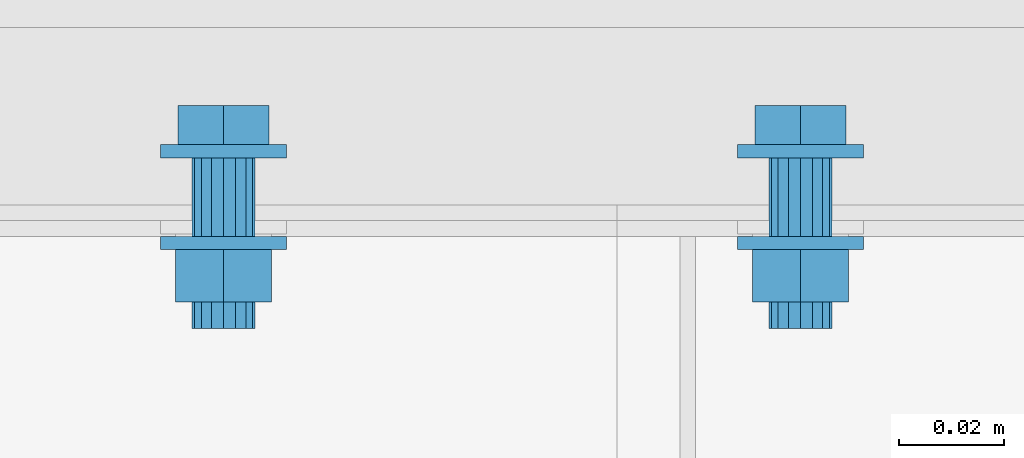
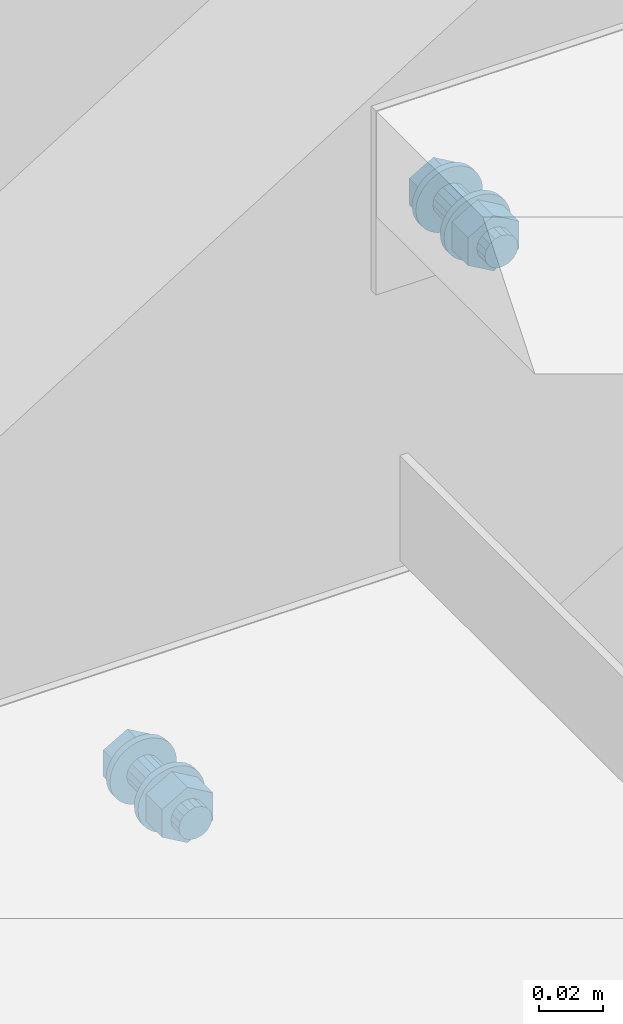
# One storey, part 284 of 410: 2 mechanical fasteners.
"""IFC2X3 building model written with IfcOpenShell, lengths in millimetres."""

from ifc_helpers import new_model, entity, si_unit, converted_unit, origin_with_axes, place, context, project, spatial, faceted_brep, element, save


model = new_model("IFC2X3")

# Units and contexts
model_context = context("Model", 3, precision=1e-09, world=origin_with_axes())
ifc_project = project(units=[si_unit("LENGTHUNIT", "METRE", prefix="MILLI"), si_unit("AREAUNIT", "SQUARE_METRE"), si_unit("VOLUMEUNIT", "CUBIC_METRE"), converted_unit("PLANEANGLEUNIT", "DEGREE", entity("IfcPlaneAngleMeasure", 0.01745329), si_unit("PLANEANGLEUNIT", "RADIAN"), dimensions=[0, 0, 0, 0, 0, 0, 0])], contexts=[model_context])

# Site, building, storey
site_placement = place(None, origin_with_axes())
site = spatial("IfcSite", under=ifc_project, at=site_placement, Name="mKR Teilneubau & Sanierung BA1 - Ostfildern", CompositionType="ELEMENT")
building_placement = place(site_placement, origin_with_axes())
building = spatial("IfcBuilding", under=site, at=building_placement, Name="Struktur 1", CompositionType="ELEMENT")
storey_placement = place(building_placement, origin_with_axes())
storey = spatial("IfcBuildingStorey", under=building, at=storey_placement, Name="Default Storey", CompositionType="ELEMENT", Elevation=0.0)

# Mechanical fasteners
mechanical_fastener_1_placement = place(None, origin_with_axes())
element("IfcMechanicalFastener", 1, at=mechanical_fastener_1_placement, inside=storey, ObjectType="Bolt", NominalDiameter=12.0, NominalLength=35.0, context=model_context, shape_type="Brep", body=[
    faceted_brep([(528.0, 16731.499999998, -3094.6), (528.0, 16728.999999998, -3094.6), (528.230576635, 16728.999999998, -3092.258916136), (528.230576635, 16731.499999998, -3092.258916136), (528.91344561, 16728.999999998, -3090.007798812), (528.91344561, 16731.499999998, -3090.007798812), (530.022364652, 16728.999999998, -3087.933157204), (530.022364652, 16731.499999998, -3087.933157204), (531.514718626, 16728.999999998, -3086.114718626), (531.514718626, 16731.499999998, -3086.114718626), (533.333157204, 16728.999999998, -3084.622364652), (533.333157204, 16731.499999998, -3084.622364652), (535.407798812, 16728.999999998, -3083.51344561), (535.407798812, 16731.499999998, -3083.51344561), (537.658916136, 16728.999999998, -3082.830576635), (537.658916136, 16731.499999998, -3082.830576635), (540.0, 16728.999999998, -3082.6), (540.0, 16731.499999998, -3082.6), (542.341083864, 16728.999999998, -3082.830576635), (542.341083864, 16731.499999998, -3082.830576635), (544.592201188, 16728.999999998, -3083.51344561), (544.592201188, 16731.499999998, -3083.51344561), (546.666842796, 16728.999999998, -3084.622364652), (546.666842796, 16731.499999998, -3084.622364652), (548.485281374, 16728.999999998, -3086.114718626), (548.485281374, 16731.499999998, -3086.114718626), (549.977635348, 16728.999999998, -3087.933157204), (549.977635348, 16731.499999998, -3087.933157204), (551.08655439, 16728.999999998, -3090.007798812), (551.08655439, 16731.499999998, -3090.007798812), (551.769423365, 16728.999999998, -3092.258916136), (551.769423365, 16731.499999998, -3092.258916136), (552.0, 16728.999999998, -3094.6), (552.0, 16731.499999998, -3094.6), (551.769423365, 16728.999999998, -3096.941083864), (551.769423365, 16731.499999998, -3096.941083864), (551.08655439, 16728.999999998, -3099.192201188), (551.08655439, 16731.499999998, -3099.192201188), (549.977635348, 16728.999999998, -3101.266842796), (549.977635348, 16731.499999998, -3101.266842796), (548.485281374, 16728.999999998, -3103.085281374), (548.485281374, 16731.499999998, -3103.085281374), (546.666842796, 16728.999999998, -3104.577635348), (546.666842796, 16731.499999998, -3104.577635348), (544.592201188, 16728.999999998, -3105.68655439), (544.592201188, 16731.499999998, -3105.68655439), (542.341083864, 16728.999999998, -3106.369423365), (542.341083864, 16731.499999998, -3106.369423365), (540.0, 16728.999999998, -3106.6), (540.0, 16731.499999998, -3106.6), (537.658916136, 16728.999999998, -3106.369423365), (537.658916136, 16731.499999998, -3106.369423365), (535.407798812, 16728.999999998, -3105.68655439), (535.407798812, 16731.499999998, -3105.68655439), (533.333157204, 16728.999999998, -3104.577635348), (533.333157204, 16731.499999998, -3104.577635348), (531.514718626, 16728.999999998, -3103.085281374), (531.514718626, 16731.499999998, -3103.085281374), (530.022364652, 16728.999999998, -3101.266842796), (530.022364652, 16731.499999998, -3101.266842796), (528.91344561, 16728.999999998, -3099.192201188), (528.91344561, 16731.499999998, -3099.192201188), (528.230576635, 16728.999999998, -3096.941083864), (528.230576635, 16731.499999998, -3096.941083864)], [[[0, 1, 2, 3]], [[3, 2, 4, 5]], [[5, 4, 6, 7]], [[7, 6, 8, 9]], [[9, 8, 10, 11]], [[11, 10, 12, 13]], [[13, 12, 14, 15]], [[15, 14, 16, 17]], [[17, 16, 18, 19]], [[19, 18, 20, 21]], [[21, 20, 22, 23]], [[23, 22, 24, 25]], [[25, 24, 26, 27]], [[27, 26, 28, 29]], [[29, 28, 30, 31]], [[31, 30, 32, 33]], [[33, 32, 34, 35]], [[35, 34, 36, 37]], [[37, 36, 38, 39]], [[39, 38, 40, 41]], [[41, 40, 42, 43]], [[43, 42, 44, 45]], [[45, 44, 46, 47]], [[47, 46, 48, 49]], [[49, 48, 50, 51]], [[51, 50, 52, 53]], [[53, 52, 54, 55]], [[55, 54, 56, 57]], [[57, 56, 58, 59]], [[59, 58, 60, 61]], [[61, 60, 62, 63]], [[63, 62, 1, 0]], [[0, 3, 5, 7, 9, 11, 13, 15, 17, 19, 21, 23, 25, 27, 29, 31, 33, 35, 37, 39, 41, 43, 45, 47, 49, 51, 53, 55, 57, 59, 61, 63]], [[1, 62, 60, 58, 56, 54, 52, 50, 48, 46, 44, 42, 40, 38, 36, 34, 32, 30, 28, 26, 24, 22, 20, 18, 16, 14, 12, 10, 8, 6, 4, 2]]]),
    faceted_brep([(548.673244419, 16731.499999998, -3089.5925), (548.673244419, 16738.999999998, -3089.5925), (540.0, 16738.999999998, -3084.585), (540.0, 16731.499999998, -3084.585), (531.326755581, 16738.999999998, -3089.5925), (531.326755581, 16731.499999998, -3089.5925), (531.326755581, 16738.999999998, -3099.6075), (531.326755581, 16731.499999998, -3099.6075), (540.0, 16738.999999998, -3104.615), (540.0, 16731.499999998, -3104.615), (548.673244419, 16738.999999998, -3099.6075), (548.673244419, 16731.499999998, -3099.6075)], [[[0, 1, 2, 3]], [[3, 2, 4, 5]], [[5, 4, 6, 7]], [[7, 6, 8, 9]], [[9, 8, 10, 11]], [[11, 10, 1, 0]], [[4, 2, 1, 10, 8, 6]], [[0, 3, 5, 7, 9, 11]]]),
    faceted_brep([(534.0, 16728.999999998, -3094.6), (534.0, 16713.999999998, -3094.6), (534.456722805, 16713.999999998, -3092.303899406), (534.456722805, 16728.999999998, -3092.303899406), (535.757359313, 16713.999999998, -3090.357359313), (535.757359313, 16728.999999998, -3090.357359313), (537.703899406, 16713.999999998, -3089.056722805), (537.703899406, 16728.999999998, -3089.056722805), (540.0, 16713.999999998, -3088.6), (540.0, 16728.999999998, -3088.6), (542.296100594, 16713.999999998, -3089.056722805), (542.296100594, 16728.999999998, -3089.056722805), (544.242640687, 16713.999999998, -3090.357359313), (544.242640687, 16728.999999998, -3090.357359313), (545.543277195, 16713.999999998, -3092.303899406), (545.543277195, 16728.999999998, -3092.303899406), (546.0, 16713.999999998, -3094.6), (546.0, 16728.999999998, -3094.6), (545.543277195, 16713.999999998, -3096.896100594), (545.543277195, 16728.999999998, -3096.896100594), (544.242640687, 16713.999999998, -3098.842640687), (544.242640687, 16728.999999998, -3098.842640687), (542.296100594, 16713.999999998, -3100.143277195), (542.296100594, 16728.999999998, -3100.143277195), (540.0, 16713.999999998, -3100.6), (540.0, 16728.999999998, -3100.6), (537.703899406, 16713.999999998, -3100.143277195), (537.703899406, 16728.999999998, -3100.143277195), (535.757359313, 16713.999999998, -3098.842640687), (535.757359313, 16728.999999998, -3098.842640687), (534.456722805, 16713.999999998, -3096.896100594), (534.456722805, 16728.999999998, -3096.896100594)], [[[0, 1, 2, 3]], [[3, 2, 4, 5]], [[5, 4, 6, 7]], [[7, 6, 8, 9]], [[9, 8, 10, 11]], [[11, 10, 12, 13]], [[13, 12, 14, 15]], [[15, 14, 16, 17]], [[17, 16, 18, 19]], [[19, 18, 20, 21]], [[21, 20, 22, 23]], [[23, 22, 24, 25]], [[25, 24, 26, 27]], [[27, 26, 28, 29]], [[29, 28, 30, 31]], [[31, 30, 1, 0]], [[0, 3, 5, 7, 9, 11, 13, 15, 17, 19, 21, 23, 25, 27, 29, 31]], [[1, 30, 28, 26, 24, 22, 20, 18, 16, 14, 12, 10, 8, 6, 4, 2]]]),
    faceted_brep([(528.0, 16713.999999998, -3094.6), (528.0, 16711.499999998, -3094.6), (528.230576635, 16711.499999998, -3092.258916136), (528.230576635, 16713.999999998, -3092.258916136), (528.91344561, 16711.499999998, -3090.007798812), (528.91344561, 16713.999999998, -3090.007798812), (530.022364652, 16711.499999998, -3087.933157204), (530.022364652, 16713.999999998, -3087.933157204), (531.514718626, 16711.499999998, -3086.114718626), (531.514718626, 16713.999999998, -3086.114718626), (533.333157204, 16711.499999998, -3084.622364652), (533.333157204, 16713.999999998, -3084.622364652), (535.407798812, 16711.499999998, -3083.51344561), (535.407798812, 16713.999999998, -3083.51344561), (537.658916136, 16711.499999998, -3082.830576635), (537.658916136, 16713.999999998, -3082.830576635), (540.0, 16711.499999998, -3082.6), (540.0, 16713.999999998, -3082.6), (542.341083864, 16711.499999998, -3082.830576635), (542.341083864, 16713.999999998, -3082.830576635), (544.592201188, 16711.499999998, -3083.51344561), (544.592201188, 16713.999999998, -3083.51344561), (546.666842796, 16711.499999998, -3084.622364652), (546.666842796, 16713.999999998, -3084.622364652), (548.485281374, 16711.499999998, -3086.114718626), (548.485281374, 16713.999999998, -3086.114718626), (549.977635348, 16711.499999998, -3087.933157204), (549.977635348, 16713.999999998, -3087.933157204), (551.08655439, 16711.499999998, -3090.007798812), (551.08655439, 16713.999999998, -3090.007798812), (551.769423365, 16711.499999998, -3092.258916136), (551.769423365, 16713.999999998, -3092.258916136), (552.0, 16711.499999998, -3094.6), (552.0, 16713.999999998, -3094.6), (551.769423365, 16711.499999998, -3096.941083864), (551.769423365, 16713.999999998, -3096.941083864), (551.08655439, 16711.499999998, -3099.192201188), (551.08655439, 16713.999999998, -3099.192201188), (549.977635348, 16711.499999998, -3101.266842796), (549.977635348, 16713.999999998, -3101.266842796), (548.485281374, 16711.499999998, -3103.085281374), (548.485281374, 16713.999999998, -3103.085281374), (546.666842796, 16711.499999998, -3104.577635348), (546.666842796, 16713.999999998, -3104.577635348), (544.592201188, 16711.499999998, -3105.68655439), (544.592201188, 16713.999999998, -3105.68655439), (542.341083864, 16711.499999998, -3106.369423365), (542.341083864, 16713.999999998, -3106.369423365), (540.0, 16711.499999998, -3106.6), (540.0, 16713.999999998, -3106.6), (537.658916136, 16711.499999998, -3106.369423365), (537.658916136, 16713.999999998, -3106.369423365), (535.407798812, 16711.499999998, -3105.68655439), (535.407798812, 16713.999999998, -3105.68655439), (533.333157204, 16711.499999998, -3104.577635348), (533.333157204, 16713.999999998, -3104.577635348), (531.514718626, 16711.499999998, -3103.085281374), (531.514718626, 16713.999999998, -3103.085281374), (530.022364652, 16711.499999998, -3101.266842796), (530.022364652, 16713.999999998, -3101.266842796), (528.91344561, 16711.499999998, -3099.192201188), (528.91344561, 16713.999999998, -3099.192201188), (528.230576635, 16711.499999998, -3096.941083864), (528.230576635, 16713.999999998, -3096.941083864)], [[[0, 1, 2, 3]], [[3, 2, 4, 5]], [[5, 4, 6, 7]], [[7, 6, 8, 9]], [[9, 8, 10, 11]], [[11, 10, 12, 13]], [[13, 12, 14, 15]], [[15, 14, 16, 17]], [[17, 16, 18, 19]], [[19, 18, 20, 21]], [[21, 20, 22, 23]], [[23, 22, 24, 25]], [[25, 24, 26, 27]], [[27, 26, 28, 29]], [[29, 28, 30, 31]], [[31, 30, 32, 33]], [[33, 32, 34, 35]], [[35, 34, 36, 37]], [[37, 36, 38, 39]], [[39, 38, 40, 41]], [[41, 40, 42, 43]], [[43, 42, 44, 45]], [[45, 44, 46, 47]], [[47, 46, 48, 49]], [[49, 48, 50, 51]], [[51, 50, 52, 53]], [[53, 52, 54, 55]], [[55, 54, 56, 57]], [[57, 56, 58, 59]], [[59, 58, 60, 61]], [[61, 60, 62, 63]], [[63, 62, 1, 0]], [[0, 3, 5, 7, 9, 11, 13, 15, 17, 19, 21, 23, 25, 27, 29, 31, 33, 35, 37, 39, 41, 43, 45, 47, 49, 51, 53, 55, 57, 59, 61, 63]], [[1, 62, 60, 58, 56, 54, 52, 50, 48, 46, 44, 42, 40, 38, 36, 34, 32, 30, 28, 26, 24, 22, 20, 18, 16, 14, 12, 10, 8, 6, 4, 2]]]),
    faceted_brep([(549.13656801, 16701.499999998, -3089.325), (549.13656801, 16711.499999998, -3089.325), (540.0, 16711.499999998, -3084.05), (540.0, 16701.499999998, -3084.05), (530.86343199, 16711.499999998, -3089.325), (530.86343199, 16701.499999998, -3089.325), (530.86343199, 16711.499999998, -3099.875), (530.86343199, 16701.499999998, -3099.875), (540.0, 16711.499999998, -3105.15), (540.0, 16701.499999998, -3105.15), (549.13656801, 16711.499999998, -3099.875), (549.13656801, 16701.499999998, -3099.875)], [[[0, 1, 2, 3]], [[3, 2, 4, 5]], [[5, 4, 6, 7]], [[7, 6, 8, 9]], [[9, 8, 10, 11]], [[11, 10, 1, 0]], [[4, 2, 1, 10, 8, 6]], [[0, 3, 5, 7, 9, 11]]]),
    faceted_brep([(534.0, 16701.499999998, -3094.6), (534.0, 16696.499999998, -3094.6), (534.456722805, 16696.499999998, -3092.303899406), (534.456722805, 16701.499999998, -3092.303899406), (535.757359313, 16696.499999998, -3090.357359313), (535.757359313, 16701.499999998, -3090.357359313), (537.703899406, 16696.499999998, -3089.056722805), (537.703899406, 16701.499999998, -3089.056722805), (540.0, 16696.499999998, -3088.6), (540.0, 16701.499999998, -3088.6), (542.296100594, 16696.499999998, -3089.056722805), (542.296100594, 16701.499999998, -3089.056722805), (544.242640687, 16696.499999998, -3090.357359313), (544.242640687, 16701.499999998, -3090.357359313), (545.543277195, 16696.499999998, -3092.303899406), (545.543277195, 16701.499999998, -3092.303899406), (546.0, 16696.499999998, -3094.6), (546.0, 16701.499999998, -3094.6), (545.543277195, 16696.499999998, -3096.896100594), (545.543277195, 16701.499999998, -3096.896100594), (544.242640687, 16696.499999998, -3098.842640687), (544.242640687, 16701.499999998, -3098.842640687), (542.296100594, 16696.499999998, -3100.143277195), (542.296100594, 16701.499999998, -3100.143277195), (540.0, 16696.499999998, -3100.6), (540.0, 16701.499999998, -3100.6), (537.703899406, 16696.499999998, -3100.143277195), (537.703899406, 16701.499999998, -3100.143277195), (535.757359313, 16696.499999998, -3098.842640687), (535.757359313, 16701.499999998, -3098.842640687), (534.456722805, 16696.499999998, -3096.896100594), (534.456722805, 16701.499999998, -3096.896100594)], [[[0, 1, 2, 3]], [[3, 2, 4, 5]], [[5, 4, 6, 7]], [[7, 6, 8, 9]], [[9, 8, 10, 11]], [[11, 10, 12, 13]], [[13, 12, 14, 15]], [[15, 14, 16, 17]], [[17, 16, 18, 19]], [[19, 18, 20, 21]], [[21, 20, 22, 23]], [[23, 22, 24, 25]], [[25, 24, 26, 27]], [[27, 26, 28, 29]], [[29, 28, 30, 31]], [[31, 30, 1, 0]], [[0, 3, 5, 7, 9, 11, 13, 15, 17, 19, 21, 23, 25, 27, 29, 31]], [[1, 30, 28, 26, 24, 22, 20, 18, 16, 14, 12, 10, 8, 6, 4, 2]]]),
])
mechanical_fastener_2_placement = place(None, origin_with_axes())
element("IfcMechanicalFastener", 2, at=mechanical_fastener_2_placement, inside=storey, ObjectType="Bolt", NominalDiameter=12.0, NominalLength=35.0, context=model_context, shape_type="Brep", body=[
    faceted_brep([(638.0, 16731.499999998, -2915.8), (638.0, 16728.999999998, -2915.8), (638.230576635, 16728.999999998, -2913.458916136), (638.230576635, 16731.499999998, -2913.458916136), (638.91344561, 16728.999999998, -2911.207798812), (638.91344561, 16731.499999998, -2911.207798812), (640.022364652, 16728.999999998, -2909.133157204), (640.022364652, 16731.499999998, -2909.133157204), (641.514718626, 16728.999999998, -2907.314718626), (641.514718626, 16731.499999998, -2907.314718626), (643.333157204, 16728.999999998, -2905.822364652), (643.333157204, 16731.499999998, -2905.822364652), (645.407798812, 16728.999999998, -2904.71344561), (645.407798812, 16731.499999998, -2904.71344561), (647.658916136, 16728.999999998, -2904.030576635), (647.658916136, 16731.499999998, -2904.030576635), (650.0, 16728.999999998, -2903.8), (650.0, 16731.499999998, -2903.8), (652.341083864, 16728.999999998, -2904.030576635), (652.341083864, 16731.499999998, -2904.030576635), (654.592201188, 16728.999999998, -2904.71344561), (654.592201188, 16731.499999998, -2904.71344561), (656.666842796, 16728.999999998, -2905.822364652), (656.666842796, 16731.499999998, -2905.822364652), (658.485281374, 16728.999999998, -2907.314718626), (658.485281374, 16731.499999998, -2907.314718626), (659.977635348, 16728.999999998, -2909.133157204), (659.977635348, 16731.499999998, -2909.133157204), (661.08655439, 16728.999999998, -2911.207798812), (661.08655439, 16731.499999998, -2911.207798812), (661.769423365, 16728.999999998, -2913.458916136), (661.769423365, 16731.499999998, -2913.458916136), (662.0, 16728.999999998, -2915.8), (662.0, 16731.499999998, -2915.8), (661.769423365, 16728.999999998, -2918.141083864), (661.769423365, 16731.499999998, -2918.141083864), (661.08655439, 16728.999999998, -2920.392201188), (661.08655439, 16731.499999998, -2920.392201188), (659.977635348, 16728.999999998, -2922.466842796), (659.977635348, 16731.499999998, -2922.466842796), (658.485281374, 16728.999999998, -2924.285281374), (658.485281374, 16731.499999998, -2924.285281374), (656.666842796, 16728.999999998, -2925.777635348), (656.666842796, 16731.499999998, -2925.777635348), (654.592201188, 16728.999999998, -2926.88655439), (654.592201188, 16731.499999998, -2926.88655439), (652.341083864, 16728.999999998, -2927.569423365), (652.341083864, 16731.499999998, -2927.569423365), (650.0, 16728.999999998, -2927.8), (650.0, 16731.499999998, -2927.8), (647.658916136, 16728.999999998, -2927.569423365), (647.658916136, 16731.499999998, -2927.569423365), (645.407798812, 16728.999999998, -2926.88655439), (645.407798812, 16731.499999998, -2926.88655439), (643.333157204, 16728.999999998, -2925.777635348), (643.333157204, 16731.499999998, -2925.777635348), (641.514718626, 16728.999999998, -2924.285281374), (641.514718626, 16731.499999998, -2924.285281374), (640.022364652, 16728.999999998, -2922.466842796), (640.022364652, 16731.499999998, -2922.466842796), (638.91344561, 16728.999999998, -2920.392201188), (638.91344561, 16731.499999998, -2920.392201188), (638.230576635, 16728.999999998, -2918.141083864), (638.230576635, 16731.499999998, -2918.141083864)], [[[0, 1, 2, 3]], [[3, 2, 4, 5]], [[5, 4, 6, 7]], [[7, 6, 8, 9]], [[9, 8, 10, 11]], [[11, 10, 12, 13]], [[13, 12, 14, 15]], [[15, 14, 16, 17]], [[17, 16, 18, 19]], [[19, 18, 20, 21]], [[21, 20, 22, 23]], [[23, 22, 24, 25]], [[25, 24, 26, 27]], [[27, 26, 28, 29]], [[29, 28, 30, 31]], [[31, 30, 32, 33]], [[33, 32, 34, 35]], [[35, 34, 36, 37]], [[37, 36, 38, 39]], [[39, 38, 40, 41]], [[41, 40, 42, 43]], [[43, 42, 44, 45]], [[45, 44, 46, 47]], [[47, 46, 48, 49]], [[49, 48, 50, 51]], [[51, 50, 52, 53]], [[53, 52, 54, 55]], [[55, 54, 56, 57]], [[57, 56, 58, 59]], [[59, 58, 60, 61]], [[61, 60, 62, 63]], [[63, 62, 1, 0]], [[0, 3, 5, 7, 9, 11, 13, 15, 17, 19, 21, 23, 25, 27, 29, 31, 33, 35, 37, 39, 41, 43, 45, 47, 49, 51, 53, 55, 57, 59, 61, 63]], [[1, 62, 60, 58, 56, 54, 52, 50, 48, 46, 44, 42, 40, 38, 36, 34, 32, 30, 28, 26, 24, 22, 20, 18, 16, 14, 12, 10, 8, 6, 4, 2]]]),
    faceted_brep([(658.673244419, 16731.499999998, -2910.7925), (658.673244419, 16738.999999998, -2910.7925), (650.0, 16738.999999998, -2905.785), (650.0, 16731.499999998, -2905.785), (641.326755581, 16738.999999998, -2910.7925), (641.326755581, 16731.499999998, -2910.7925), (641.326755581, 16738.999999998, -2920.8075), (641.326755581, 16731.499999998, -2920.8075), (650.0, 16738.999999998, -2925.815), (650.0, 16731.499999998, -2925.815), (658.673244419, 16738.999999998, -2920.8075), (658.673244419, 16731.499999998, -2920.8075)], [[[0, 1, 2, 3]], [[3, 2, 4, 5]], [[5, 4, 6, 7]], [[7, 6, 8, 9]], [[9, 8, 10, 11]], [[11, 10, 1, 0]], [[4, 2, 1, 10, 8, 6]], [[0, 3, 5, 7, 9, 11]]]),
    faceted_brep([(644.0, 16728.999999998, -2915.8), (644.0, 16713.999999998, -2915.8), (644.456722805, 16713.999999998, -2913.503899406), (644.456722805, 16728.999999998, -2913.503899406), (645.757359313, 16713.999999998, -2911.557359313), (645.757359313, 16728.999999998, -2911.557359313), (647.703899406, 16713.999999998, -2910.256722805), (647.703899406, 16728.999999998, -2910.256722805), (650.0, 16713.999999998, -2909.8), (650.0, 16728.999999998, -2909.8), (652.296100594, 16713.999999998, -2910.256722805), (652.296100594, 16728.999999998, -2910.256722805), (654.242640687, 16713.999999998, -2911.557359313), (654.242640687, 16728.999999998, -2911.557359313), (655.543277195, 16713.999999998, -2913.503899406), (655.543277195, 16728.999999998, -2913.503899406), (656.0, 16713.999999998, -2915.8), (656.0, 16728.999999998, -2915.8), (655.543277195, 16713.999999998, -2918.096100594), (655.543277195, 16728.999999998, -2918.096100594), (654.242640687, 16713.999999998, -2920.042640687), (654.242640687, 16728.999999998, -2920.042640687), (652.296100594, 16713.999999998, -2921.343277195), (652.296100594, 16728.999999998, -2921.343277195), (650.0, 16713.999999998, -2921.8), (650.0, 16728.999999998, -2921.8), (647.703899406, 16713.999999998, -2921.343277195), (647.703899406, 16728.999999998, -2921.343277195), (645.757359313, 16713.999999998, -2920.042640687), (645.757359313, 16728.999999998, -2920.042640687), (644.456722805, 16713.999999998, -2918.096100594), (644.456722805, 16728.999999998, -2918.096100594)], [[[0, 1, 2, 3]], [[3, 2, 4, 5]], [[5, 4, 6, 7]], [[7, 6, 8, 9]], [[9, 8, 10, 11]], [[11, 10, 12, 13]], [[13, 12, 14, 15]], [[15, 14, 16, 17]], [[17, 16, 18, 19]], [[19, 18, 20, 21]], [[21, 20, 22, 23]], [[23, 22, 24, 25]], [[25, 24, 26, 27]], [[27, 26, 28, 29]], [[29, 28, 30, 31]], [[31, 30, 1, 0]], [[0, 3, 5, 7, 9, 11, 13, 15, 17, 19, 21, 23, 25, 27, 29, 31]], [[1, 30, 28, 26, 24, 22, 20, 18, 16, 14, 12, 10, 8, 6, 4, 2]]]),
    faceted_brep([(638.0, 16713.999999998, -2915.8), (638.0, 16711.499999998, -2915.8), (638.230576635, 16711.499999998, -2913.458916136), (638.230576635, 16713.999999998, -2913.458916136), (638.91344561, 16711.499999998, -2911.207798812), (638.91344561, 16713.999999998, -2911.207798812), (640.022364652, 16711.499999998, -2909.133157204), (640.022364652, 16713.999999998, -2909.133157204), (641.514718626, 16711.499999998, -2907.314718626), (641.514718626, 16713.999999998, -2907.314718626), (643.333157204, 16711.499999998, -2905.822364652), (643.333157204, 16713.999999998, -2905.822364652), (645.407798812, 16711.499999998, -2904.71344561), (645.407798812, 16713.999999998, -2904.71344561), (647.658916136, 16711.499999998, -2904.030576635), (647.658916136, 16713.999999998, -2904.030576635), (650.0, 16711.499999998, -2903.8), (650.0, 16713.999999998, -2903.8), (652.341083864, 16711.499999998, -2904.030576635), (652.341083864, 16713.999999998, -2904.030576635), (654.592201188, 16711.499999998, -2904.71344561), (654.592201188, 16713.999999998, -2904.71344561), (656.666842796, 16711.499999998, -2905.822364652), (656.666842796, 16713.999999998, -2905.822364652), (658.485281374, 16711.499999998, -2907.314718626), (658.485281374, 16713.999999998, -2907.314718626), (659.977635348, 16711.499999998, -2909.133157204), (659.977635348, 16713.999999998, -2909.133157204), (661.08655439, 16711.499999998, -2911.207798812), (661.08655439, 16713.999999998, -2911.207798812), (661.769423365, 16711.499999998, -2913.458916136), (661.769423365, 16713.999999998, -2913.458916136), (662.0, 16711.499999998, -2915.8), (662.0, 16713.999999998, -2915.8), (661.769423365, 16711.499999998, -2918.141083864), (661.769423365, 16713.999999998, -2918.141083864), (661.08655439, 16711.499999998, -2920.392201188), (661.08655439, 16713.999999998, -2920.392201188), (659.977635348, 16711.499999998, -2922.466842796), (659.977635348, 16713.999999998, -2922.466842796), (658.485281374, 16711.499999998, -2924.285281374), (658.485281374, 16713.999999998, -2924.285281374), (656.666842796, 16711.499999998, -2925.777635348), (656.666842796, 16713.999999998, -2925.777635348), (654.592201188, 16711.499999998, -2926.88655439), (654.592201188, 16713.999999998, -2926.88655439), (652.341083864, 16711.499999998, -2927.569423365), (652.341083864, 16713.999999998, -2927.569423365), (650.0, 16711.499999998, -2927.8), (650.0, 16713.999999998, -2927.8), (647.658916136, 16711.499999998, -2927.569423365), (647.658916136, 16713.999999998, -2927.569423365), (645.407798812, 16711.499999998, -2926.88655439), (645.407798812, 16713.999999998, -2926.88655439), (643.333157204, 16711.499999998, -2925.777635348), (643.333157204, 16713.999999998, -2925.777635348), (641.514718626, 16711.499999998, -2924.285281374), (641.514718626, 16713.999999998, -2924.285281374), (640.022364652, 16711.499999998, -2922.466842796), (640.022364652, 16713.999999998, -2922.466842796), (638.91344561, 16711.499999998, -2920.392201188), (638.91344561, 16713.999999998, -2920.392201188), (638.230576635, 16711.499999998, -2918.141083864), (638.230576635, 16713.999999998, -2918.141083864)], [[[0, 1, 2, 3]], [[3, 2, 4, 5]], [[5, 4, 6, 7]], [[7, 6, 8, 9]], [[9, 8, 10, 11]], [[11, 10, 12, 13]], [[13, 12, 14, 15]], [[15, 14, 16, 17]], [[17, 16, 18, 19]], [[19, 18, 20, 21]], [[21, 20, 22, 23]], [[23, 22, 24, 25]], [[25, 24, 26, 27]], [[27, 26, 28, 29]], [[29, 28, 30, 31]], [[31, 30, 32, 33]], [[33, 32, 34, 35]], [[35, 34, 36, 37]], [[37, 36, 38, 39]], [[39, 38, 40, 41]], [[41, 40, 42, 43]], [[43, 42, 44, 45]], [[45, 44, 46, 47]], [[47, 46, 48, 49]], [[49, 48, 50, 51]], [[51, 50, 52, 53]], [[53, 52, 54, 55]], [[55, 54, 56, 57]], [[57, 56, 58, 59]], [[59, 58, 60, 61]], [[61, 60, 62, 63]], [[63, 62, 1, 0]], [[0, 3, 5, 7, 9, 11, 13, 15, 17, 19, 21, 23, 25, 27, 29, 31, 33, 35, 37, 39, 41, 43, 45, 47, 49, 51, 53, 55, 57, 59, 61, 63]], [[1, 62, 60, 58, 56, 54, 52, 50, 48, 46, 44, 42, 40, 38, 36, 34, 32, 30, 28, 26, 24, 22, 20, 18, 16, 14, 12, 10, 8, 6, 4, 2]]]),
    faceted_brep([(659.13656801, 16701.499999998, -2910.525), (659.13656801, 16711.499999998, -2910.525), (650.0, 16711.499999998, -2905.25), (650.0, 16701.499999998, -2905.25), (640.86343199, 16711.499999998, -2910.525), (640.86343199, 16701.499999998, -2910.525), (640.86343199, 16711.499999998, -2921.075), (640.86343199, 16701.499999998, -2921.075), (650.0, 16711.499999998, -2926.35), (650.0, 16701.499999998, -2926.35), (659.13656801, 16711.499999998, -2921.075), (659.13656801, 16701.499999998, -2921.075)], [[[0, 1, 2, 3]], [[3, 2, 4, 5]], [[5, 4, 6, 7]], [[7, 6, 8, 9]], [[9, 8, 10, 11]], [[11, 10, 1, 0]], [[4, 2, 1, 10, 8, 6]], [[0, 3, 5, 7, 9, 11]]]),
    faceted_brep([(644.0, 16701.499999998, -2915.8), (644.0, 16696.499999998, -2915.8), (644.456722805, 16696.499999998, -2913.503899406), (644.456722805, 16701.499999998, -2913.503899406), (645.757359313, 16696.499999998, -2911.557359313), (645.757359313, 16701.499999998, -2911.557359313), (647.703899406, 16696.499999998, -2910.256722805), (647.703899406, 16701.499999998, -2910.256722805), (650.0, 16696.499999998, -2909.8), (650.0, 16701.499999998, -2909.8), (652.296100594, 16696.499999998, -2910.256722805), (652.296100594, 16701.499999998, -2910.256722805), (654.242640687, 16696.499999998, -2911.557359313), (654.242640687, 16701.499999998, -2911.557359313), (655.543277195, 16696.499999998, -2913.503899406), (655.543277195, 16701.499999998, -2913.503899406), (656.0, 16696.499999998, -2915.8), (656.0, 16701.499999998, -2915.8), (655.543277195, 16696.499999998, -2918.096100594), (655.543277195, 16701.499999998, -2918.096100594), (654.242640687, 16696.499999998, -2920.042640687), (654.242640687, 16701.499999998, -2920.042640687), (652.296100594, 16696.499999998, -2921.343277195), (652.296100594, 16701.499999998, -2921.343277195), (650.0, 16696.499999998, -2921.8), (650.0, 16701.499999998, -2921.8), (647.703899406, 16696.499999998, -2921.343277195), (647.703899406, 16701.499999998, -2921.343277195), (645.757359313, 16696.499999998, -2920.042640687), (645.757359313, 16701.499999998, -2920.042640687), (644.456722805, 16696.499999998, -2918.096100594), (644.456722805, 16701.499999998, -2918.096100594)], [[[0, 1, 2, 3]], [[3, 2, 4, 5]], [[5, 4, 6, 7]], [[7, 6, 8, 9]], [[9, 8, 10, 11]], [[11, 10, 12, 13]], [[13, 12, 14, 15]], [[15, 14, 16, 17]], [[17, 16, 18, 19]], [[19, 18, 20, 21]], [[21, 20, 22, 23]], [[23, 22, 24, 25]], [[25, 24, 26, 27]], [[27, 26, 28, 29]], [[29, 28, 30, 31]], [[31, 30, 1, 0]], [[0, 3, 5, 7, 9, 11, 13, 15, 17, 19, 21, 23, 25, 27, 29, 31]], [[1, 30, 28, 26, 24, 22, 20, 18, 16, 14, 12, 10, 8, 6, 4, 2]]]),
])

save(model, "model.ifc")
